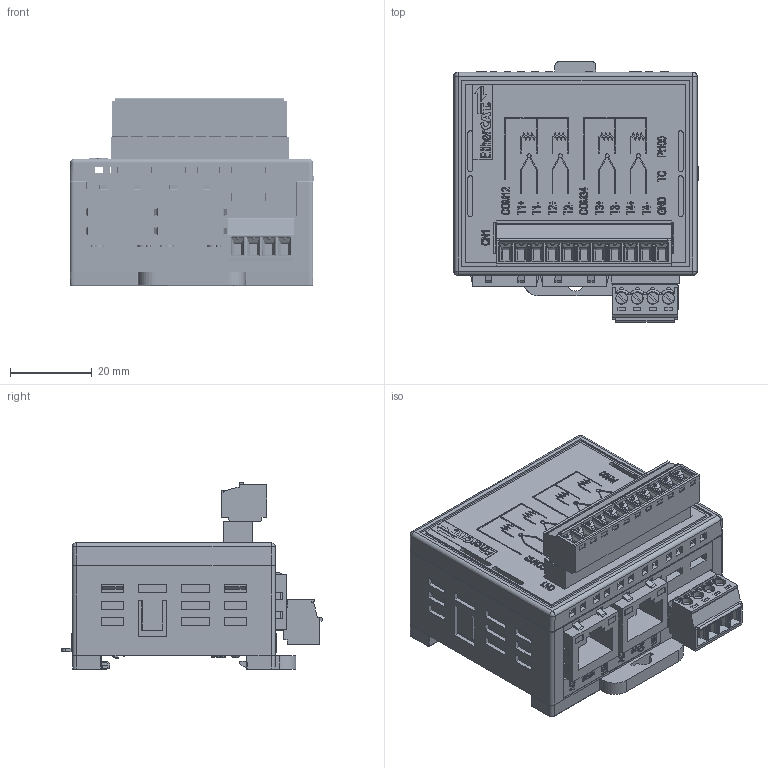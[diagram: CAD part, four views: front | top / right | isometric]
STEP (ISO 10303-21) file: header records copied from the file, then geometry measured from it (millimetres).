
FILE_DESCRIPTION((''),'2;1');
FILE_NAME('ECCBT40','2026-05-27T14:08:42',('gijyu181'),(''),'CREO PARAMETRIC BY PTC INC, 2018050','CREO PARAMETRIC BY PTC INC, 2018050','');
FILE_SCHEMA(('CONFIG_CONTROL_DESIGN','SHAPE_APPEARANCE_LAYERS_GROUPS'));
Products named in the file (1): ECCBT40
Bounding box: 59.75 x 63.65 x 45.8 mm (x, y, z)
Volume: 73447.8 mm3; surface area: 45795 mm2
Topology: 2 solids, 65 shells, 8940 faces, 24701 edges, 16251 vertices
Faces by surface type: plane 6259, cylinder 1249, extrusion 1144, cone 117, sphere 89, torus 58, bspline 24
Entity records: 360192 total; most frequent: CARTESIAN_POINT 65506, ORIENTED_EDGE 49276, DIRECTION 40601, EDGE_CURVE 24642, VECTOR 20159, LINE 19015, VERTEX_POINT 16251, PRESENTATION_STYLE_ASSIGNMENT 13424
